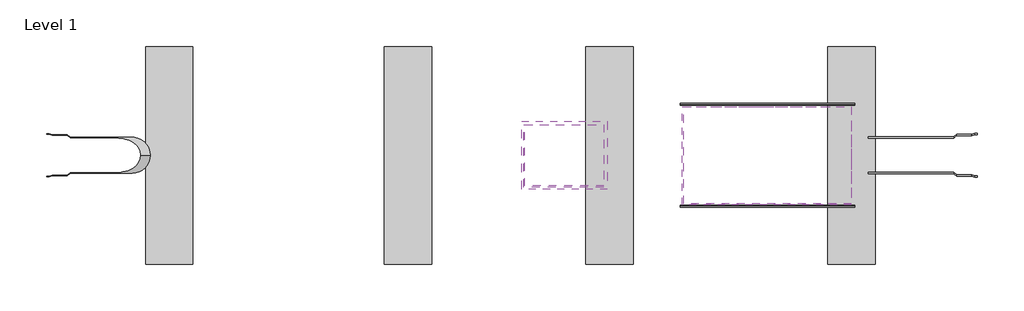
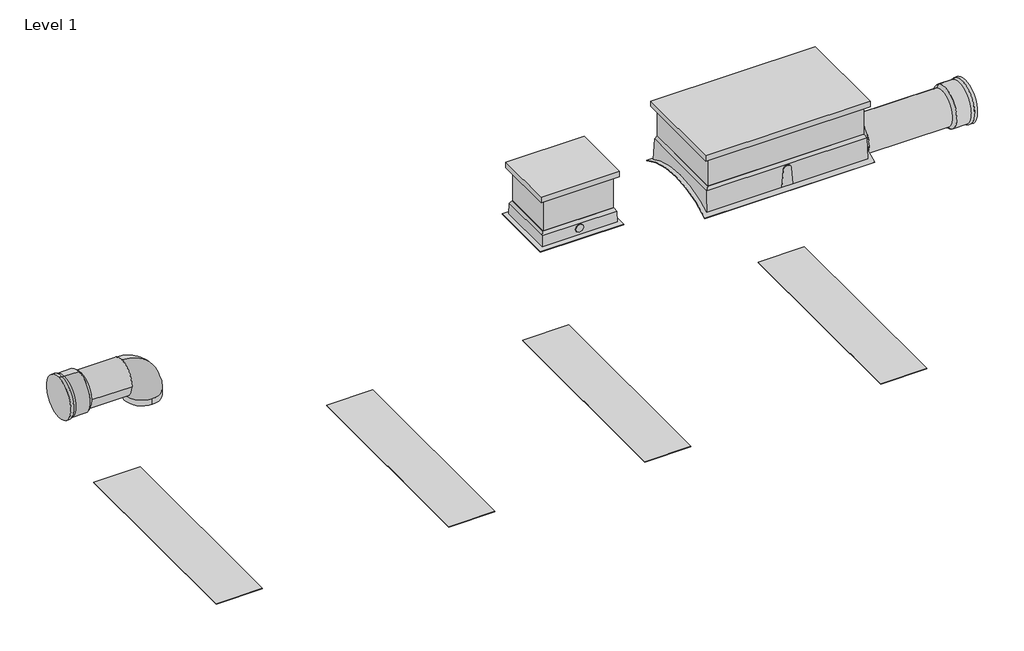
# One storey, incomplete: 12 proxies.
"""IFC4 building model written with IfcOpenShell, lengths in millimetres."""

from ifc_helpers import new_model, si_unit, origin, place, context, project, spatial, transform, mapped, element, save
from components import generic_models_f28cb2f1, generic_models_3c154cac, generic_models_98b37f22, generic_models_27e32457, generic_models_fcdfde94, generic_models_c0f8ed8c, generic_models_3ce653ea, proxy_600_storm_pro_inlet_elbow_25fc55d9, proxy_600_storm_pro_pipe_and_socket_19742617

model = new_model("IFC4")

# Units and contexts
model_context = context("Model", 3, world=origin())
ifc_project = project(units=[si_unit("LENGTHUNIT", "METRE", prefix="MILLI")], contexts=[model_context])

# Site, building, storey
site = spatial("IfcSite", under=ifc_project)
building = spatial("IfcBuilding", under=site)
storey = spatial("IfcBuildingStorey", under=building, Name="Level 1", Elevation=0.0)

# Proxies
placement = place(None, origin())
generic_models_shape = generic_models_f28cb2f1(model_context)
element("IfcBuildingElementProxy", 1, Name="SU.HS.FOOT.3500", ObjectType="SU.HS.FOOT.3500", at=placement, inside=storey, context=model_context, shape_type="MappedRepresentation", body=[
    mapped(generic_models_shape, transform((-4303.4021454, -13.0189138, -2135.7858921), x_axis=(0.0, 1.0, 0.0), y_axis=(0.0, 0.0, 1.0), z_axis=(1.0, 0.0, 0.0))),
])
element("IfcBuildingElementProxy", 2, Name="SU.HS.FOOT.3500", ObjectType="SU.HS.FOOT.3500", at=placement, inside=storey, context=model_context, shape_type="MappedRepresentation", body=[
    mapped(generic_models_shape, transform((-260.0688121, -13.0189138, -2135.7858921), x_axis=(0.0, 1.0, 0.0), y_axis=(0.0, 0.0, 1.0), z_axis=(1.0, 0.0, 0.0))),
])
element("IfcBuildingElementProxy", 3, Name="SU.HS.FOOT.3500", ObjectType="SU.HS.FOOT.3500", at=placement, inside=storey, context=model_context, shape_type="MappedRepresentation", body=[
    mapped(generic_models_shape, transform((7248.978807, -13.0189138, -2135.7858921), x_axis=(0.0, 1.0, 0.0), y_axis=(0.0, 0.0, 1.0), z_axis=(1.0, 0.0, 0.0))),
])
element("IfcBuildingElementProxy", 4, Name="SU.HS.FOOT.3500", ObjectType="SU.HS.FOOT.3500", at=placement, inside=storey, context=model_context, shape_type="MappedRepresentation", body=[
    mapped(generic_models_shape, transform((3150.0723743, -13.0189138, -2135.7858921), x_axis=(0.0, 1.0, 0.0), y_axis=(0.0, 0.0, 1.0), z_axis=(1.0, 0.0, 0.0))),
])
generic_models_2_shape = generic_models_3c154cac(model_context)
element("IfcBuildingElementProxy", 5, Name="SU.1500x2700ManwayRiserAdaptor.3500", ObjectType="SU.1500x2700ManwayRiserAdaptor.3500", at=placement, inside=storey, context=model_context, shape_type="MappedRepresentation", body=[
    mapped(generic_models_2_shape, transform((6125.0704947, -13.0189138, 1715.97119), x_axis=(0.0, 1.0, 0.0), y_axis=(0.0, 0.0, 1.0), z_axis=(1.0, 0.0, 0.0))),
])
generic_models_3_shape = generic_models_98b37f22(model_context)
element("IfcBuildingElementProxy", 6, Name="1500x2700x600 Manway Riser", ObjectType="1500x2700x600 Manway Riser", at=placement, inside=storey, context=model_context, shape_type="MappedRepresentation", body=[
    mapped(generic_models_3_shape, transform((6125.0704947, -13.0189138, 2206.0271944), x_axis=(0.0, 1.0, 0.0), y_axis=(0.0, 0.0, 1.0), z_axis=(1.0, 0.0, 0.0))),
])
generic_models_4_shape = generic_models_27e32457(model_context)
element("IfcBuildingElementProxy", 7, Name="SU.900x1200ManwayRiserAdapter.3500", ObjectType="SU.900x1200ManwayRiserAdapter.3500", at=placement, inside=storey, context=model_context, shape_type="MappedRepresentation", body=[
    mapped(generic_models_4_shape, transform((2687.0704947, -13.0189138, 1650.0271944), x_axis=(0.0, 1.0, 0.0), y_axis=(0.0, 0.0, 1.0), z_axis=(1.0, 0.0, 0.0))),
])
generic_models_5_shape = generic_models_fcdfde94(model_context)
element("IfcBuildingElementProxy", 8, Name="900x900 Manway Cover Class D ST-02", ObjectType="900x900 Manway Cover Class D ST-02", at=placement, inside=storey, context=model_context, shape_type="MappedRepresentation", body=[
    mapped(generic_models_5_shape, transform((2677.0704947, -23.0189138, 2206.0271944), x_axis=(0.0, -1.0, 0.0), y_axis=(0.0, 0.0, 1.0), z_axis=(-1.0, 0.0, 0.0))),
])
generic_models_6_shape = generic_models_c0f8ed8c(model_context)
element("IfcBuildingElementProxy", 9, Name="900x1200x600 Manway Riser", ObjectType="900x1200x600 Manway Riser", at=placement, inside=storey, context=model_context, shape_type="MappedRepresentation", body=[
    mapped(generic_models_6_shape, transform((2687.0704947, -13.0189138, 2206.0271944), x_axis=(0.0, -1.0, 0.0), y_axis=(0.0, 0.0, 1.0), z_axis=(-1.0, 0.0, 0.0))),
])
generic_models_7_shape = generic_models_3ce653ea(model_context)
element("IfcBuildingElementProxy", 10, Name="1500x2700 Manway Cover Class D ST-02", ObjectType="1500x2700 Manway Cover Class D ST-02", at=placement, inside=storey, context=model_context, shape_type="MappedRepresentation", body=[
    mapped(generic_models_7_shape, transform((6115.0704947, -23.0189138, 2206.0271944), x_axis=(0.0, 1.0, 0.0), y_axis=(0.0, 0.0, 1.0), z_axis=(1.0, 0.0, 0.0))),
])
proxy_600_storm_pro_inlet_elbow_shape = proxy_600_storm_pro_inlet_elbow_25fc55d9(model_context)
element("IfcBuildingElementProxy", 11, Name="600 Storm Pro Inlet Elbow", ObjectType="600 Storm Pro Inlet Elbow", at=placement, inside=storey, context=model_context, shape_type="MappedRepresentation", body=[
    mapped(proxy_600_storm_pro_inlet_elbow_shape, transform((-5629.9982189, -13.0189138, 1124.2141079), x_axis=(0.0, -1.0, 0.0), y_axis=(0.0, 0.0, 1.0), z_axis=(-1.0, 0.0, 0.0))),
])
proxy_600_storm_pro_pipe_and_socket_shape = proxy_600_storm_pro_pipe_and_socket_19742617(model_context)
element("IfcBuildingElementProxy", 12, Name="600 Storm Pro Pipe and Socket", ObjectType="600 Storm Pro Pipe and Socket", at=placement, inside=storey, context=model_context, shape_type="MappedRepresentation", body=[
    mapped(proxy_600_storm_pro_pipe_and_socket_shape, transform((6580.0704947, -13.0189138, 1074.2141079), x_axis=(0.0, 0.8432797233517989, -0.5374749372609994), y_axis=(0.0, 0.5374749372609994, 0.8432797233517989), z_axis=(0.9999999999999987, 0.0, 0.0))),
])

save(model, "model.ifc")
